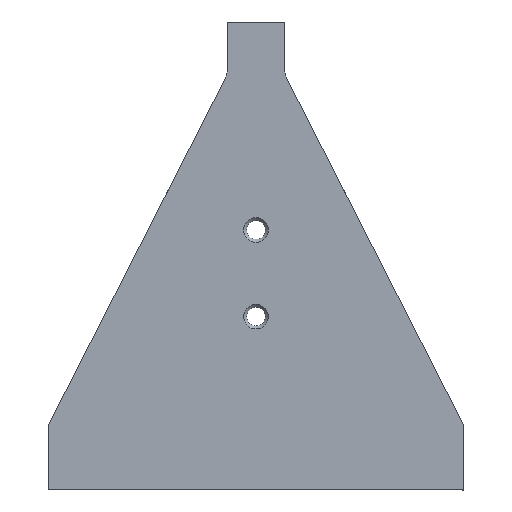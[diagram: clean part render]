
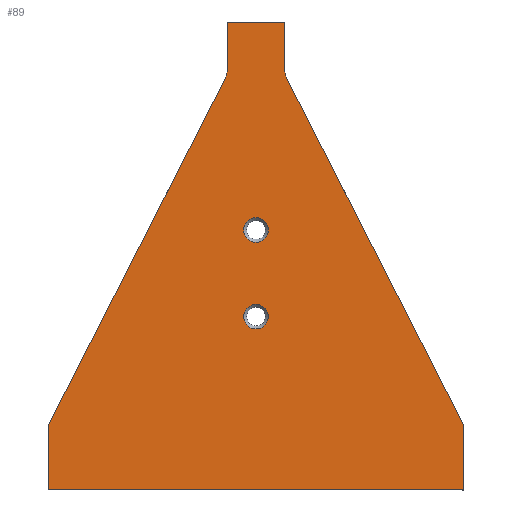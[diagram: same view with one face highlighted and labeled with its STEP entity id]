
A CAD part, top view. The second image highlights one B-rep face of the part: STEP entity #89.
In plain terms, the highlighted planar face has unit normal (0, 0, 1).
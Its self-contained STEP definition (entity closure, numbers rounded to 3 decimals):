
#89=ADVANCED_FACE('',(#458,#460,#462),#464,.T.);
#458=FACE_BOUND('',#459,.T.);
#459=EDGE_LOOP('',(#800,#801,#802,#803,#804,#805,#806,#807,#808,#809,#810,#811));
#460=FACE_BOUND('',#461,.T.);
#461=EDGE_LOOP('',(#812));
#462=FACE_BOUND('',#463,.T.);
#463=EDGE_LOOP('',(#813));
#464=PLANE('',#465);
#465=AXIS2_PLACEMENT_3D('',#466,#467,#468);
#466=CARTESIAN_POINT('',(0.,0.,8.));
#467=DIRECTION('',(0.,0.,1.));
#468=DIRECTION('',(-1.,0.,0.));
#800=ORIENTED_EDGE('',*,*,#928,.T.);
#801=ORIENTED_EDGE('',*,*,#929,.T.);
#802=ORIENTED_EDGE('',*,*,#930,.T.);
#803=ORIENTED_EDGE('',*,*,#931,.T.);
#804=ORIENTED_EDGE('',*,*,#932,.T.);
#805=ORIENTED_EDGE('',*,*,#933,.T.);
#806=ORIENTED_EDGE('',*,*,#934,.T.);
#807=ORIENTED_EDGE('',*,*,#909,.T.);
#808=ORIENTED_EDGE('',*,*,#927,.T.);
#809=ORIENTED_EDGE('',*,*,#935,.T.);
#810=ORIENTED_EDGE('',*,*,#936,.T.);
#811=ORIENTED_EDGE('',*,*,#937,.T.);
#812=ORIENTED_EDGE('',*,*,#938,.T.);
#813=ORIENTED_EDGE('',*,*,#939,.T.);
#909=EDGE_CURVE('',#978,#976,#979,.T.);
#927=EDGE_CURVE('',#976,#1010,#1012,.T.);
#928=EDGE_CURVE('',#1013,#1014,#1015,.T.);
#929=EDGE_CURVE('',#1014,#1016,#1017,.T.);
#930=EDGE_CURVE('',#1016,#1018,#1019,.T.);
#931=EDGE_CURVE('',#1018,#1020,#1021,.T.);
#932=EDGE_CURVE('',#1020,#1022,#1023,.T.);
#933=EDGE_CURVE('',#1022,#1024,#1025,.T.);
#934=EDGE_CURVE('',#1024,#978,#1026,.T.);
#935=EDGE_CURVE('',#1010,#1027,#1028,.T.);
#936=EDGE_CURVE('',#1027,#1029,#1030,.T.);
#937=EDGE_CURVE('',#1029,#1013,#1031,.T.);
#938=EDGE_CURVE('',#1032,#1032,#1033,.F.);
#939=EDGE_CURVE('',#1034,#1034,#1035,.F.);
#976=VERTEX_POINT('',#1098);
#978=VERTEX_POINT('',#1102);
#979=LINE('',#1103,#1104);
#1010=VERTEX_POINT('',#1176);
#1012=LINE('',#1180,#1181);
#1013=VERTEX_POINT('',#1183);
#1014=VERTEX_POINT('',#1184);
#1015=CIRCLE('',#1185,3.);
#1016=VERTEX_POINT('',#1189);
#1017=LINE('',#1190,#1191);
#1018=VERTEX_POINT('',#1193);
#1019=LINE('',#1194,#1195);
#1020=VERTEX_POINT('',#1197);
#1021=LINE('',#1198,#1199);
#1022=VERTEX_POINT('',#1201);
#1023=CIRCLE('',#1202,3.);
#1024=VERTEX_POINT('',#1206);
#1025=LINE('',#1207,#1208);
#1026=CIRCLE('',#1210,1.);
#1027=VERTEX_POINT('',#1214);
#1028=LINE('',#1215,#1216);
#1029=VERTEX_POINT('',#1218);
#1030=CIRCLE('',#1219,1.);
#1031=LINE('',#1223,#1224);
#1032=VERTEX_POINT('',#1226);
#1033=CIRCLE('',#1227,2.121);
#1034=VERTEX_POINT('',#1231);
#1035=CIRCLE('',#1232,2.121);
#1098=CARTESIAN_POINT('',(-36.,-82.,8.));
#1102=CARTESIAN_POINT('',(-36.,-71.201,8.));
#1103=CARTESIAN_POINT('',(-36.,-71.201,8.));
#1104=VECTOR('',#1105,1.);
#1105=DIRECTION('',(0.,-1.,0.));
#1176=CARTESIAN_POINT('',(36.,-82.,8.));
#1180=CARTESIAN_POINT('',(-36.,-82.,8.));
#1181=VECTOR('',#1182,1.);
#1182=DIRECTION('',(1.,0.,0.));
#1183=CARTESIAN_POINT('',(5.327,-10.762,8.));
#1184=CARTESIAN_POINT('',(5.,-9.4,8.));
#1185=AXIS2_PLACEMENT_3D('',#1186,#1187,#1188);
#1186=CARTESIAN_POINT('',(8.,-9.4,8.));
#1187=DIRECTION('',(0.,0.,-1.));
#1188=DIRECTION('',(-0.891,-0.454,0.));
#1189=CARTESIAN_POINT('',(5.,-1.,8.));
#1190=CARTESIAN_POINT('',(5.,-9.4,8.));
#1191=VECTOR('',#1192,1.);
#1192=DIRECTION('',(0.,1.,0.));
#1193=CARTESIAN_POINT('',(-5.,-1.,8.));
#1194=CARTESIAN_POINT('',(5.,-1.,8.));
#1195=VECTOR('',#1196,1.);
#1196=DIRECTION('',(-1.,0.,0.));
#1197=CARTESIAN_POINT('',(-5.,-9.4,8.));
#1198=CARTESIAN_POINT('',(-5.,-1.,8.));
#1199=VECTOR('',#1200,1.);
#1200=DIRECTION('',(0.,-1.,0.));
#1201=CARTESIAN_POINT('',(-5.327,-10.762,8.));
#1202=AXIS2_PLACEMENT_3D('',#1203,#1204,#1205);
#1203=CARTESIAN_POINT('',(-8.,-9.4,8.));
#1204=DIRECTION('',(0.,0.,-1.));
#1205=DIRECTION('',(1.,0.,0.));
#1206=CARTESIAN_POINT('',(-35.891,-70.747,8.));
#1207=CARTESIAN_POINT('',(-5.327,-10.762,8.));
#1208=VECTOR('',#1209,1.);
#1209=DIRECTION('',(-0.454,-0.891,0.));
#1210=AXIS2_PLACEMENT_3D('',#1211,#1212,#1213);
#1211=CARTESIAN_POINT('',(-35.,-71.201,8.));
#1212=DIRECTION('',(0.,0.,1.));
#1213=DIRECTION('',(-0.891,0.454,0.));
#1214=CARTESIAN_POINT('',(36.,-71.201,8.));
#1215=CARTESIAN_POINT('',(36.,-82.,8.));
#1216=VECTOR('',#1217,1.);
#1217=DIRECTION('',(0.,1.,0.));
#1218=CARTESIAN_POINT('',(35.891,-70.747,8.));
#1219=AXIS2_PLACEMENT_3D('',#1220,#1221,#1222);
#1220=CARTESIAN_POINT('',(35.,-71.201,8.));
#1221=DIRECTION('',(0.,0.,1.));
#1222=DIRECTION('',(1.,0.,0.));
#1223=CARTESIAN_POINT('',(35.891,-70.747,8.));
#1224=VECTOR('',#1225,1.);
#1225=DIRECTION('',(-0.454,0.891,0.));
#1226=CARTESIAN_POINT('',(-2.121,-52.,8.));
#1227=AXIS2_PLACEMENT_3D('',#1228,#1229,#1230);
#1228=CARTESIAN_POINT('',(0.,-52.,8.));
#1229=DIRECTION('',(0.,0.,1.));
#1230=DIRECTION('',(-1.,0.,0.));
#1231=CARTESIAN_POINT('',(-2.121,-37.,8.));
#1232=AXIS2_PLACEMENT_3D('',#1233,#1234,#1235);
#1233=CARTESIAN_POINT('',(0.,-37.,8.));
#1234=DIRECTION('',(0.,0.,1.));
#1235=DIRECTION('',(-1.,0.,0.));
